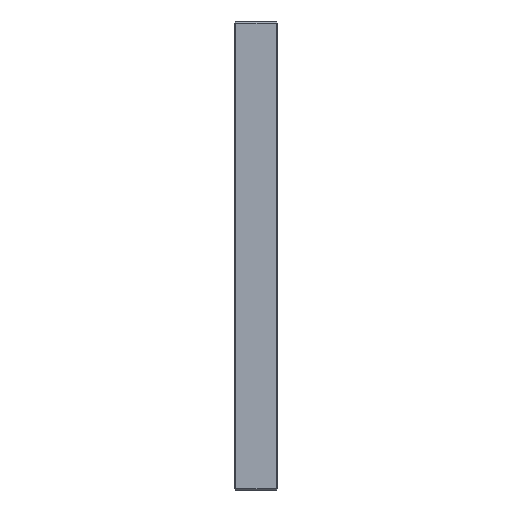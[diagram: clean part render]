
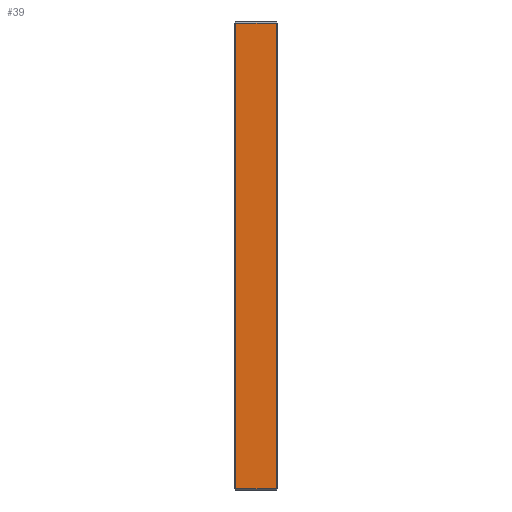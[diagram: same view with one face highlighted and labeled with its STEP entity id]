
A CAD part, left-side view. The second image highlights one B-rep face of the part: STEP entity #39.
In plain terms, the highlighted planar face has unit normal (-1, 0, 0).
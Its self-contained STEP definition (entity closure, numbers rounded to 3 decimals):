
#39 = ADVANCED_FACE ( 'NONE', ( #903 ), #1487, .F. ) ;
#46 = VERTEX_POINT ( 'NONE', #1927 ) ;
#72 = CARTESIAN_POINT ( 'NONE',  ( -223., 35., -197. ) ) ;
#246 = ORIENTED_EDGE ( 'NONE', *, *, #1656, .T. ) ;
#274 = EDGE_LOOP ( 'NONE', ( #246, #2345, #2268, #2243 ) ) ;
#323 = VECTOR ( 'NONE', #1049, 1000. ) ;
#420 = CARTESIAN_POINT ( 'NONE',  ( -223., 1., 197. ) ) ;
#903 = FACE_OUTER_BOUND ( 'NONE', #274, .T. ) ;
#924 = VECTOR ( 'NONE', #971, 1000. ) ;
#962 = DIRECTION ( 'NONE',  ( 0., 0., 1. ) ) ;
#971 = DIRECTION ( 'NONE',  ( 0., -1., 0. ) ) ;
#980 = CARTESIAN_POINT ( 'NONE',  ( -223., 1., 198. ) ) ;
#986 = CARTESIAN_POINT ( 'NONE',  ( -223., 36., -197. ) ) ;
#1037 = CARTESIAN_POINT ( 'NONE',  ( -223., 36., 197. ) ) ;
#1049 = DIRECTION ( 'NONE',  ( 0., 1., 0. ) ) ;
#1064 = DIRECTION ( 'NONE',  ( 0., 0., -1. ) ) ;
#1115 = CARTESIAN_POINT ( 'NONE',  ( -223., 35., -198. ) ) ;
#1155 = VECTOR ( 'NONE', #962, 1000. ) ;
#1189 = LINE ( 'NONE', #1037, #323 ) ;
#1274 = VERTEX_POINT ( 'NONE', #1486 ) ;
#1392 = AXIS2_PLACEMENT_3D ( 'NONE', #2081, #1684, #1726 ) ;
#1415 = VECTOR ( 'NONE', #1064, 1000. ) ;
#1486 = CARTESIAN_POINT ( 'NONE',  ( -223., 1., -197. ) ) ;
#1487 = PLANE ( 'NONE',  #1392 ) ;
#1609 = EDGE_CURVE ( 'NONE', #46, #1977, #2203, .T. ) ;
#1628 = EDGE_CURVE ( 'NONE', #2185, #46, #1189, .T. ) ;
#1643 = EDGE_CURVE ( 'NONE', #1274, #2185, #1688, .T. ) ;
#1656 = EDGE_CURVE ( 'NONE', #1977, #1274, #2040, .T. ) ;
#1684 = DIRECTION ( 'NONE',  ( 1., 0., 0. ) ) ;
#1688 = LINE ( 'NONE', #980, #1155 ) ;
#1726 = DIRECTION ( 'NONE',  ( 0., 0., -1. ) ) ;
#1927 = CARTESIAN_POINT ( 'NONE',  ( -223., 35., 197. ) ) ;
#1977 = VERTEX_POINT ( 'NONE', #72 ) ;
#2040 = LINE ( 'NONE', #986, #924 ) ;
#2081 = CARTESIAN_POINT ( 'NONE',  ( -223., 36., 198. ) ) ;
#2185 = VERTEX_POINT ( 'NONE', #420 ) ;
#2203 = LINE ( 'NONE', #1115, #1415 ) ;
#2243 = ORIENTED_EDGE ( 'NONE', *, *, #1609, .T. ) ;
#2268 = ORIENTED_EDGE ( 'NONE', *, *, #1628, .T. ) ;
#2345 = ORIENTED_EDGE ( 'NONE', *, *, #1643, .T. ) ;
